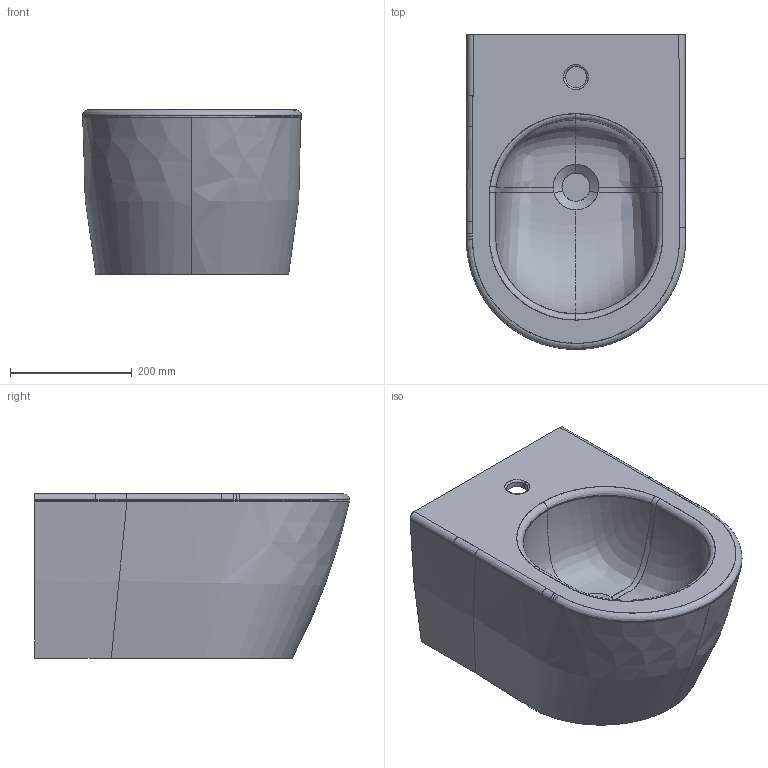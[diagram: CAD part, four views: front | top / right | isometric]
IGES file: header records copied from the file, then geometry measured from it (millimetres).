
Global section: file name: /Volumes/Documenti/lavoro/DATI_archivio 1/SITO ALTHEA CERAMICA/2022/SCHEDE PRODOTTO/COVER RIMLESS PLUSTON/bidet_sospeso_COVER_pluston.igs; preprocessor: Trout Lake IGES 012 Jun 21 2016; date: 220428.085914; units: millimetre
Bounding box: 359.84 x 517.43 x 270 mm (x, y, z)
Surface area: 808392.7 mm2 (no closed solid volume)
Topology: 0 solids, 0 shells, 53 faces, 1383 edges, 1383 vertices
Faces by surface type: bspline 53
